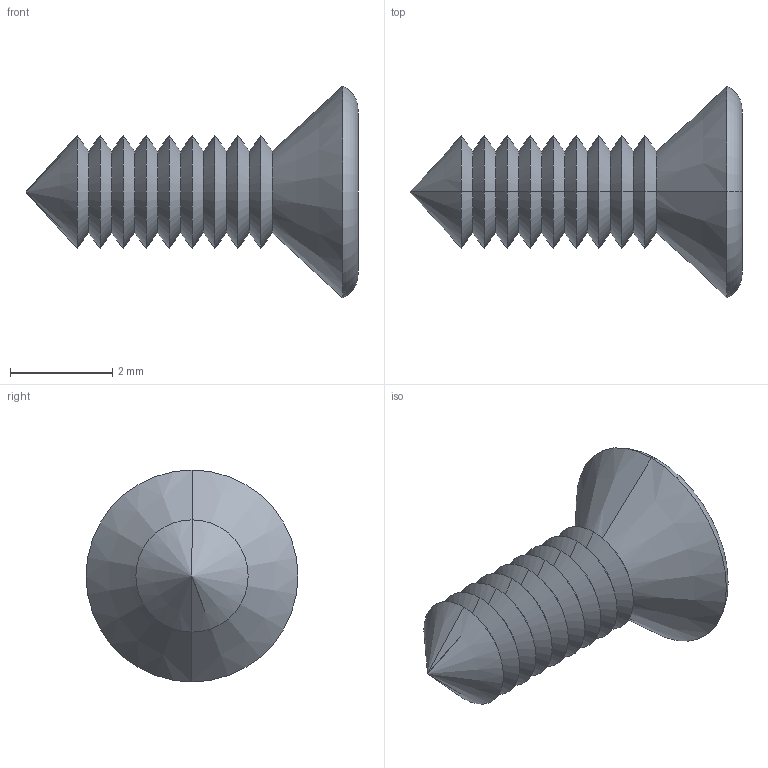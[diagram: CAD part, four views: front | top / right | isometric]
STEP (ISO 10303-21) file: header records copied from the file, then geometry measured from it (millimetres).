
FILE_DESCRIPTION (( 'STEP AP214' ), '1' );
FILE_NAME ('Cargol 2,1x6,5 PP32.STEP', '2016-10-07T08:09:36', ( 'aaa' ), ( '' ), 'SwSTEP 2.0', 'SolidWorks 2013', '' );
FILE_SCHEMA (( 'AUTOMOTIVE_DESIGN' ));
Length unit declared in the file: millimetre
Products named in the file (1): Cargol 2,1x6,5 PP32
Bounding box: 6.5 x 4.15 x 4.15 mm (x, y, z)
Volume: 24.8 mm3; surface area: 77.7 mm2
Topology: 1 solids, 1 shells, 54 faces, 118 edges, 65 vertices
Faces by surface type: cone 38, plane 14, torus 2
Entity records: 1460 total; most frequent: DIRECTION 268, CARTESIAN_POINT 236, ORIENTED_EDGE 232, EDGE_CURVE 116, AXIS2_PLACEMENT_3D 97, VECTOR 74, LINE 74, VERTEX_POINT 65
